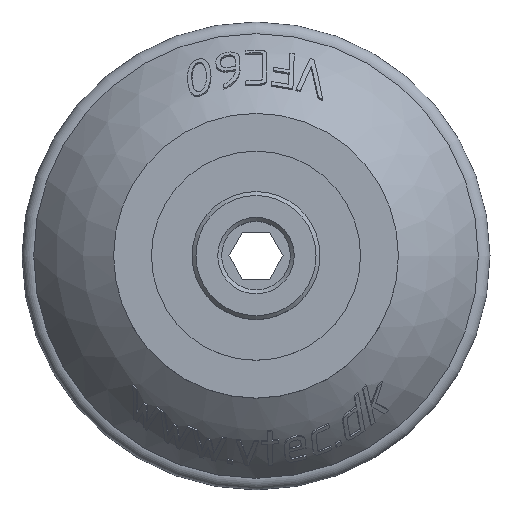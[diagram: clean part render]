
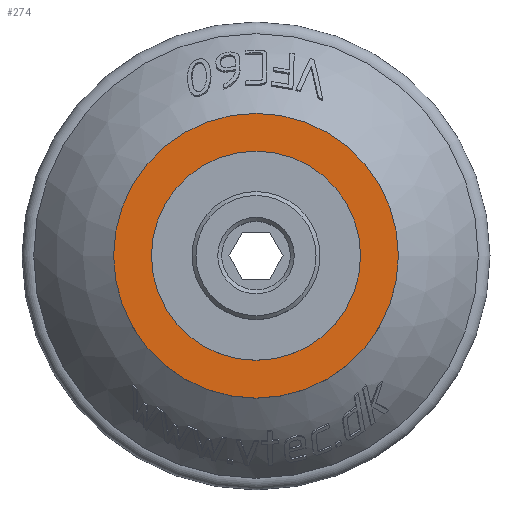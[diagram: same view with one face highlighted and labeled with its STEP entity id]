
A CAD part, top view. The second image highlights one B-rep face of the part: STEP entity #274.
In plain terms, the highlighted planar face has unit normal (0, 0, 1).
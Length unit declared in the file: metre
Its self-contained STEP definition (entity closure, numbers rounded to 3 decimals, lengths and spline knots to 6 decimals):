
#274 = ADVANCED_FACE( '', ( #762, #763 ), #764, .T. );
#762 = FACE_OUTER_BOUND( '', #6201, .T. );
#763 = FACE_BOUND( '', #6202, .T. );
#764 = PLANE( '', #6203 );
#6201 = EDGE_LOOP( '', ( #7919 ) );
#6202 = EDGE_LOOP( '', ( #7920 ) );
#6203 = AXIS2_PLACEMENT_3D( '', #7921, #7922, #7923 );
#7919 = ORIENTED_EDGE( '', *, *, #8374, .T. );
#7920 = ORIENTED_EDGE( '', *, *, #8646, .F. );
#7921 = CARTESIAN_POINT( '', ( 0.0134, 0., 0.00485 ) );
#7922 = DIRECTION( '', ( 0., 0., 1. ) );
#7923 = DIRECTION( '', ( 1., 0., 0. ) );
#8374 = EDGE_CURVE( '', #9184, #9184, #9185, .T. );
#8646 = EDGE_CURVE( '', #9601, #9601, #9602, .T. );
#9184 = VERTEX_POINT( '', #11781 );
#9185 = CIRCLE( '', #11782, 0.01825 );
#9601 = VERTEX_POINT( '', #13405 );
#9602 = CIRCLE( '', #13406, 0.0134 );
#11781 = CARTESIAN_POINT( '', ( 0.01825, 0., 0.00485 ) );
#11782 = AXIS2_PLACEMENT_3D( '', #13687, #13688, #13689 );
#13405 = CARTESIAN_POINT( '', ( 0.0134, 0., 0.00485 ) );
#13406 = AXIS2_PLACEMENT_3D( '', #13804, #13805, #13806 );
#13687 = CARTESIAN_POINT( '', ( 0., 0., 0.00485 ) );
#13688 = DIRECTION( '', ( 0., 0., 1. ) );
#13689 = DIRECTION( '', ( 1., 0., 0. ) );
#13804 = CARTESIAN_POINT( '', ( 0., 0., 0.00485 ) );
#13805 = DIRECTION( '', ( 0., 0., 1. ) );
#13806 = DIRECTION( '', ( 1., 0., 0. ) );
